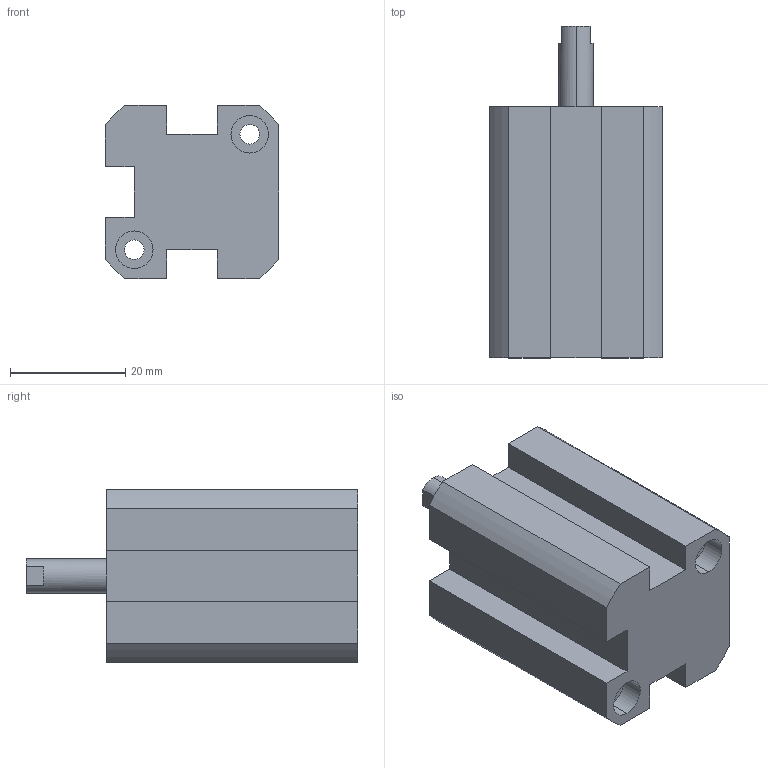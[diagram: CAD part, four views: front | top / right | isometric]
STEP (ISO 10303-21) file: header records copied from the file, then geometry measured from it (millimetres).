
FILE_DESCRIPTION (( 'STEP AP203' ), '1' );
FILE_NAME ('XG#0-16D-10.STEP', '2016-05-24T01:30:12', ( '' ), ( '' ), 'SwSTEP 2.0', 'SolidWorks 2014', '' );
FILE_SCHEMA (( 'CONFIG_CONTROL_DESIGN' ));
Length unit declared in the file: millimetre
Products named in the file (1): XG#0-16D-10
Bounding box: 30 x 57.5 x 30 mm (x, y, z)
Volume: 31214.9 mm3; surface area: 9397.1 mm2
Topology: 1 solids, 1 shells, 73 faces, 181 edges, 117 vertices
Faces by surface type: cylinder 37, plane 32, cone 4
Entity records: 2251 total; most frequent: DIRECTION 404, CARTESIAN_POINT 368, ORIENTED_EDGE 354, EDGE_CURVE 177, AXIS2_PLACEMENT_3D 153, VERTEX_POINT 117, LINE 98, VECTOR 98
